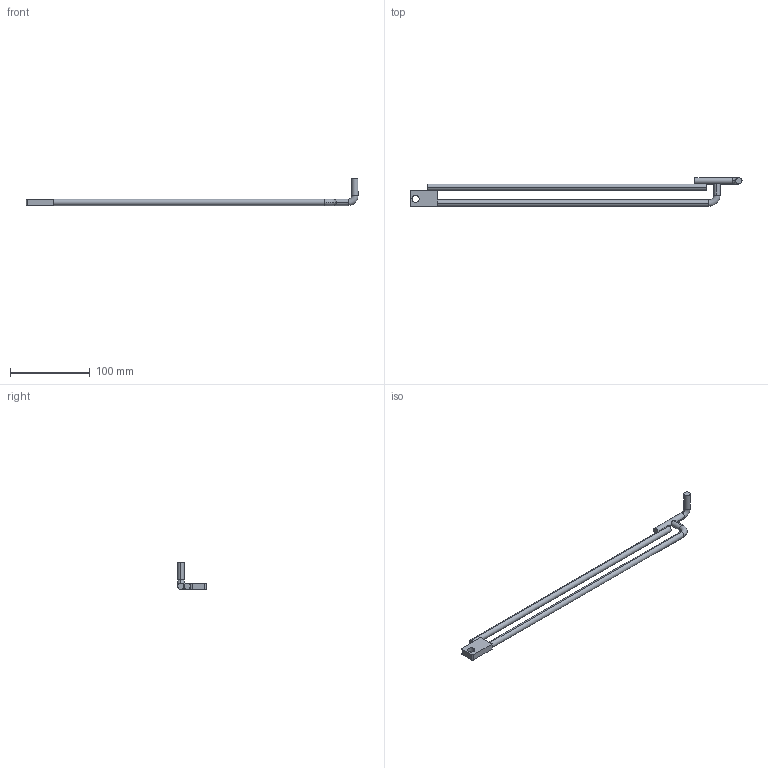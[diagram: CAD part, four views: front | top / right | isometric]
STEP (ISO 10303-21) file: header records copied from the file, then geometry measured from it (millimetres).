
FILE_DESCRIPTION (( 'STEP AP203' ), '1' );
FILE_NAME ('STAFFA-DI_SICUREZZA_OSSATURE_PORTA.STEP', '2019-04-08T17:55:52', ( '' ), ( '' ), 'SwSTEP 2.0', 'SolidWorks 2019', '' );
FILE_SCHEMA (( 'CONFIG_CONTROL_DESIGN' ));
Length unit declared in the file: millimetre
Products named in the file (1): STAFFA-DI_SICUREZZA_OSSATURE_PORTA
Bounding box: 416.41 x 36 x 34 mm (x, y, z)
Volume: 45376.4 mm3; surface area: 22637.2 mm2
Topology: 2 solids, 2 shells, 32 faces, 77 edges, 49 vertices
Faces by surface type: cylinder 14, plane 14, torus 4
Entity records: 1025 total; most frequent: DIRECTION 180, CARTESIAN_POINT 171, ORIENTED_EDGE 154, EDGE_CURVE 77, AXIS2_PLACEMENT_3D 74, VERTEX_POINT 49, CIRCLE 41, EDGE_LOOP 34
